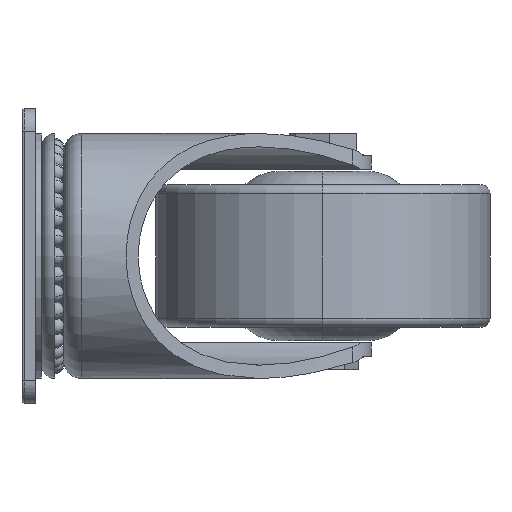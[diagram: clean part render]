
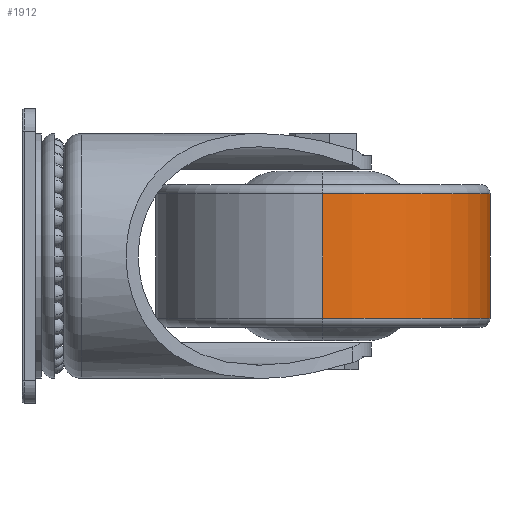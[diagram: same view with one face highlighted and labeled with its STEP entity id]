
A CAD part, left-side view. The second image highlights one B-rep face of the part: STEP entity #1912.
In plain terms, the highlighted cylindrical face has radius 37.5 mm (diameter 75 mm), a partial arc.
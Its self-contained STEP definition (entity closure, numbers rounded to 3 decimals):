
#116 = DIRECTION ( 'NONE',  ( 0., 0., 1. ) ) ;
#454 = AXIS2_PLACEMENT_3D ( 'NONE', #5632, #4945, #4275 ) ;
#643 = CIRCLE ( 'NONE', #454, 37.5 ) ;
#755 = VECTOR ( 'NONE', #5004, 1000. ) ;
#763 = ORIENTED_EDGE ( 'NONE', *, *, #2279, .F. ) ;
#779 = CARTESIAN_POINT ( 'NONE',  ( 0., 0., -14. ) ) ;
#820 = ORIENTED_EDGE ( 'NONE', *, *, #1813, .T. ) ;
#1062 = EDGE_CURVE ( 'NONE', #3946, #1665, #4606, .T. ) ;
#1147 = EDGE_CURVE ( 'NONE', #4971, #2302, #643, .T. ) ;
#1494 = VECTOR ( 'NONE', #5055, 1000. ) ;
#1665 = VERTEX_POINT ( 'NONE', #2975 ) ;
#1813 = EDGE_CURVE ( 'NONE', #2302, #3946, #6406, .T. ) ;
#1912 = ADVANCED_FACE ( 'NONE', ( #5011 ), #3998, .T. ) ;
#2231 = CARTESIAN_POINT ( 'NONE',  ( 37.5, 0., 14. ) ) ;
#2279 = EDGE_CURVE ( 'NONE', #4971, #1665, #6359, .T. ) ;
#2302 = VERTEX_POINT ( 'NONE', #6398 ) ;
#2788 = CARTESIAN_POINT ( 'NONE',  ( -37.5, 0., -14. ) ) ;
#2858 = ORIENTED_EDGE ( 'NONE', *, *, #1062, .T. ) ;
#2975 = CARTESIAN_POINT ( 'NONE',  ( 37.5, 0., -14. ) ) ;
#3599 = DIRECTION ( 'NONE',  ( -1., 0., 0. ) ) ;
#3946 = VERTEX_POINT ( 'NONE', #2788 ) ;
#3950 = AXIS2_PLACEMENT_3D ( 'NONE', #779, #116, #5946 ) ;
#3998 = CYLINDRICAL_SURFACE ( 'NONE', #5359, 37.5 ) ;
#4260 = DIRECTION ( 'NONE',  ( 0., 0., -1. ) ) ;
#4275 = DIRECTION ( 'NONE',  ( -1., 0., 0. ) ) ;
#4280 = ORIENTED_EDGE ( 'NONE', *, *, #1147, .T. ) ;
#4606 = CIRCLE ( 'NONE', #3950, 37.5 ) ;
#4929 = CARTESIAN_POINT ( 'NONE',  ( 0., 0., -75.336 ) ) ;
#4945 = DIRECTION ( 'NONE',  ( 0., 0., -1. ) ) ;
#4971 = VERTEX_POINT ( 'NONE', #2231 ) ;
#5004 = DIRECTION ( 'NONE',  ( 0., 0., -1. ) ) ;
#5011 = FACE_OUTER_BOUND ( 'NONE', #5062, .T. ) ;
#5055 = DIRECTION ( 'NONE',  ( 0., 0., -1. ) ) ;
#5062 = EDGE_LOOP ( 'NONE', ( #763, #4280, #820, #2858 ) ) ;
#5359 = AXIS2_PLACEMENT_3D ( 'NONE', #4929, #4260, #3599 ) ;
#5632 = CARTESIAN_POINT ( 'NONE',  ( 0., 0., 14. ) ) ;
#5687 = CARTESIAN_POINT ( 'NONE',  ( 37.5, 0., -75.336 ) ) ;
#5732 = CARTESIAN_POINT ( 'NONE',  ( -37.5, 0., -75.336 ) ) ;
#5946 = DIRECTION ( 'NONE',  ( 1., 0., 0. ) ) ;
#6359 = LINE ( 'NONE', #5687, #755 ) ;
#6398 = CARTESIAN_POINT ( 'NONE',  ( -37.5, 0., 14. ) ) ;
#6406 = LINE ( 'NONE', #5732, #1494 ) ;
